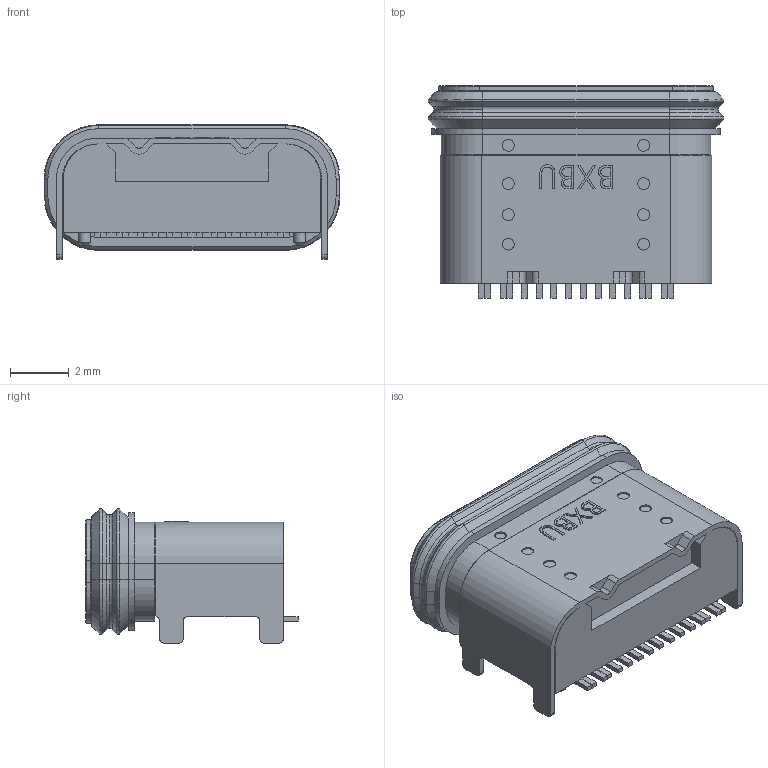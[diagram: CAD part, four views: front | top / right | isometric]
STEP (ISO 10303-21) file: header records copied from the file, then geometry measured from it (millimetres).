
FILE_DESCRIPTION (( 'STEP AP214' ), '1' );
FILE_NAME ('U5399-16PN6.7LF.STEP', '2026-07-31T02:43:36', ( '' ), ( '' ), 'SwSTEP 2.0', 'SolidWorks 2024', '' );
FILE_SCHEMA (( 'AUTOMOTIVE_DESIGN' ));
Length unit declared in the file: millimetre
Products named in the file (1): U5399-16PN6.7LF
Bounding box: 10.04 x 7.2 x 4.56 mm (x, y, z)
Volume: 125 mm3; surface area: 639.3 mm2
Topology: 2 solids, 5 shells, 998 faces, 2692 edges, 1712 vertices
Faces by surface type: plane 503, cylinder 278, torus 120, cone 56, bspline 41
Entity records: 33206 total; most frequent: CARTESIAN_POINT 8191, ORIENTED_EDGE 5384, DIRECTION 5125, EDGE_CURVE 2692, AXIS2_PLACEMENT_3D 1787, VERTEX_POINT 1712, LINE 1551, VECTOR 1551
